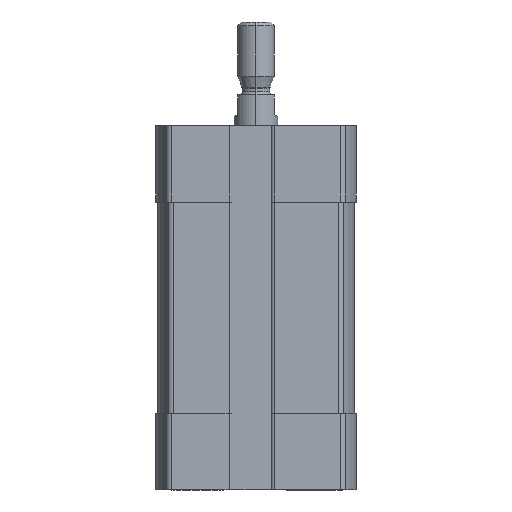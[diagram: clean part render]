
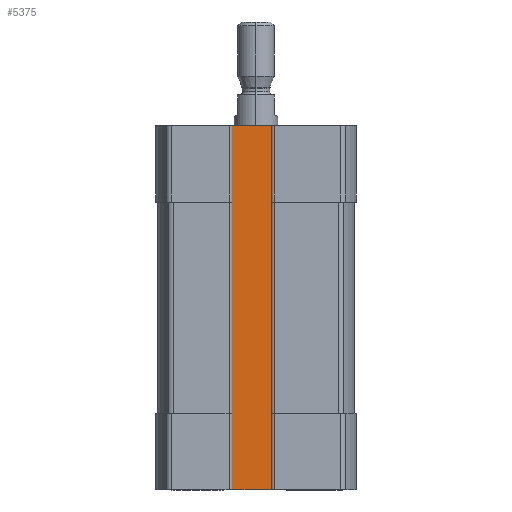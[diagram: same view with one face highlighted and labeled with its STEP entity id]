
A CAD part, left-side view. The second image highlights one B-rep face of the part: STEP entity #5375.
In plain terms, the highlighted planar face has unit normal (-1, 0, 0).
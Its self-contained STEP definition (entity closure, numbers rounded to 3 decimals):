
#74 = CARTESIAN_POINT ( 'NONE',  ( -8.3, 3.6, 0. ) ) ;
#266 = VECTOR ( 'NONE', #6158, 1000. ) ;
#314 = ORIENTED_EDGE ( 'NONE', *, *, #10345, .T. ) ;
#443 = CARTESIAN_POINT ( 'NONE',  ( -8.3, 3.6, -50. ) ) ;
#808 = VERTEX_POINT ( 'NONE', #7019 ) ;
#828 = DIRECTION ( 'NONE',  ( 0., 0., 1. ) ) ;
#1269 = VECTOR ( 'NONE', #4189, 1000. ) ;
#1674 = CARTESIAN_POINT ( 'NONE',  ( -8.3, 3.6, -50. ) ) ;
#2294 = CARTESIAN_POINT ( 'NONE',  ( -8.3, -2.4, 0. ) ) ;
#2300 = CARTESIAN_POINT ( 'NONE',  ( -8.3, 3.6, -50. ) ) ;
#2710 = CARTESIAN_POINT ( 'NONE',  ( -8.3, -2.5, 0. ) ) ;
#2929 = EDGE_CURVE ( 'NONE', #3857, #4142, #5611, .T. ) ;
#3279 = ORIENTED_EDGE ( 'NONE', *, *, #2929, .F. ) ;
#3664 = LINE ( 'NONE', #7737, #1269 ) ;
#3857 = VERTEX_POINT ( 'NONE', #74 ) ;
#4142 = VERTEX_POINT ( 'NONE', #2294 ) ;
#4189 = DIRECTION ( 'NONE',  ( 0., 0., 1. ) ) ;
#4630 = FACE_OUTER_BOUND ( 'NONE', #8599, .T. ) ;
#5019 = VECTOR ( 'NONE', #8579, 1000. ) ;
#5048 = VECTOR ( 'NONE', #8069, 1000. ) ;
#5254 = EDGE_CURVE ( 'NONE', #808, #4142, #3664, .T. ) ;
#5300 = PLANE ( 'NONE',  #6769 ) ;
#5375 = ADVANCED_FACE ( 'NONE', ( #4630 ), #5300, .T. ) ;
#5525 = ORIENTED_EDGE ( 'NONE', *, *, #7146, .T. ) ;
#5611 = LINE ( 'NONE', #2710, #5048 ) ;
#6158 = DIRECTION ( 'NONE',  ( 0., 0., -1. ) ) ;
#6188 = DIRECTION ( 'NONE',  ( -1., 0., 0. ) ) ;
#6769 = AXIS2_PLACEMENT_3D ( 'NONE', #1674, #6188, #828 ) ;
#7019 = CARTESIAN_POINT ( 'NONE',  ( -8.3, -2.4, -50. ) ) ;
#7096 = LINE ( 'NONE', #11496, #266 ) ;
#7146 = EDGE_CURVE ( 'NONE', #10738, #808, #7265, .T. ) ;
#7265 = LINE ( 'NONE', #2300, #5019 ) ;
#7737 = CARTESIAN_POINT ( 'NONE',  ( -8.3, -2.4, -50. ) ) ;
#8069 = DIRECTION ( 'NONE',  ( 0., -1., 0. ) ) ;
#8579 = DIRECTION ( 'NONE',  ( 0., -1., 0. ) ) ;
#8599 = EDGE_LOOP ( 'NONE', ( #5525, #11022, #3279, #314 ) ) ;
#10345 = EDGE_CURVE ( 'NONE', #3857, #10738, #7096, .T. ) ;
#10738 = VERTEX_POINT ( 'NONE', #443 ) ;
#11022 = ORIENTED_EDGE ( 'NONE', *, *, #5254, .T. ) ;
#11496 = CARTESIAN_POINT ( 'NONE',  ( -8.3, 3.6, -50. ) ) ;
